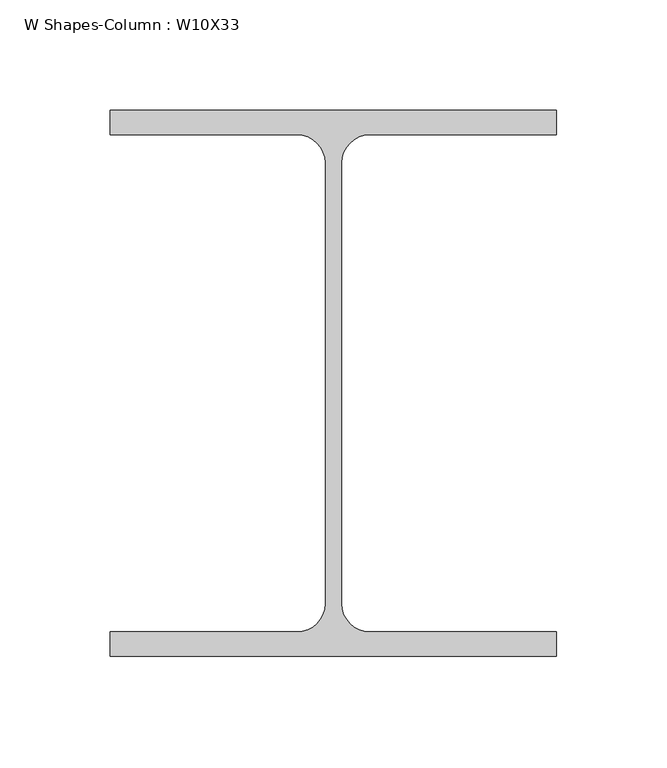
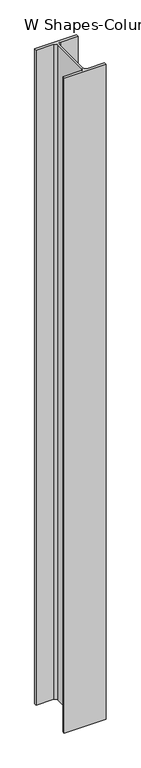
"""IFC4 building model written with IfcOpenShell, lengths in millimetres: column geometry, W Shapes-Column : W10X33."""

from ifc_helpers import new_model, si_unit, point, frame, frame_2d, origin, place, context, project, spatial, polyline, circle_curve, trimmed, segment, composite_curve, outline, extrude, source, transform, mapped, element, save


def w_shapes_column_w10x33_19826069(model_context):
    return source(origin(), model_context, "Body", "SweptSolid", [
        extrude(outline(composite_curve([segment(polyline([(101.092, 123.571), (101.092, 112.522), (16.383, 112.522)]), True, "CONTINUOUS"), segment(trimmed(circle_curve(frame_2d((16.383, 99.822)), 12.7), [point((16.383, 112.522))], [point((3.683, 99.822))], True, "CARTESIAN"), True, "CONTINUOUS"), segment(polyline([(3.683, 99.822), (3.683, -99.822)]), True, "CONTINUOUS"), segment(trimmed(circle_curve(frame_2d((16.383, -99.822)), 12.7), [point((3.683, -99.822))], [point((16.383, -112.522))], True, "CARTESIAN"), True, "CONTINUOUS"), segment(polyline([(16.383, -112.522), (101.092, -112.522), (101.092, -123.571), (-101.092, -123.571), (-101.092, -112.522), (-16.383, -112.522)]), True, "CONTINUOUS"), segment(trimmed(circle_curve(frame_2d((-16.383, -99.822)), 12.7), [point((-16.383, -112.522))], [point((-3.683, -99.822))], True, "CARTESIAN"), True, "CONTINUOUS"), segment(polyline([(-3.683, -99.822), (-3.683, 99.822)]), True, "CONTINUOUS"), segment(trimmed(circle_curve(frame_2d((-16.383, 99.822)), 12.7), [point((-3.683, 99.822))], [point((-16.383, 112.522))], True, "CARTESIAN"), True, "CONTINUOUS"), segment(polyline([(-16.383, 112.522), (-101.092, 112.522), (-101.092, 123.571), (101.092, 123.571)]), True, "CONTINUOUS")], self_intersect=False)), frame((0.0, 0.0, 13411.2), z_axis=(0.0, 0.0, 1.0), x_axis=(1.0, 0.0, 0.0)), (0.0, 0.0, 1.0), 3345.3575851),
    ])


if __name__ == "__main__":
    model = new_model("IFC4")
    model_context = context("Model", 3, world=origin())
    ifc_project = project(units=[si_unit("LENGTHUNIT", "METRE", prefix="MILLI")], contexts=[model_context])
    site = spatial("IfcSite", under=ifc_project)
    building = spatial("IfcBuilding", under=site)
    placement = place(None, origin())
    w_shapes_column_w10x33_shape = w_shapes_column_w10x33_19826069(model_context)
    element("IfcColumn", 1, ObjectType="W Shapes-Column : W10X33", at=placement, inside=building, context=model_context, shape_type="MappedRepresentation", body=[
        mapped(w_shapes_column_w10x33_shape, transform((0.0, 0.0, 0.0), x_axis=(1.0, 0.0, 0.0), y_axis=(0.0, 1.0, 0.0), z_axis=(0.0, 0.0, 1.0))),
    ])
    save(model, "model.ifc")
